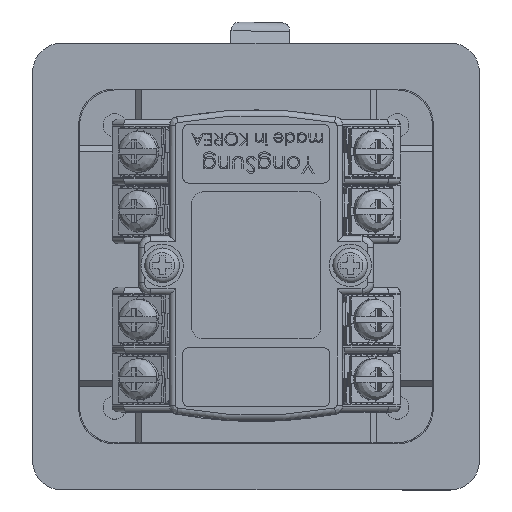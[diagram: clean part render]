
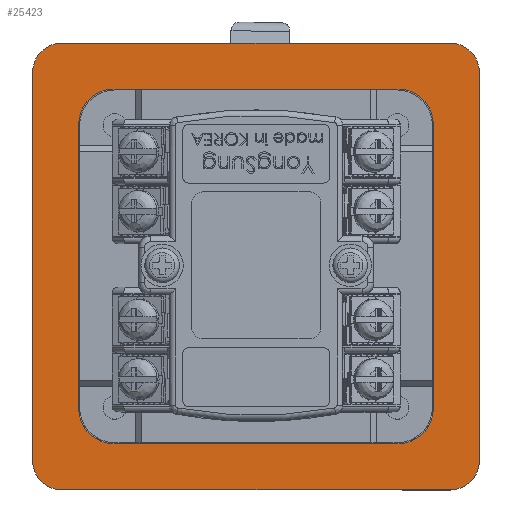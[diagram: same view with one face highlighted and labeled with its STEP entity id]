
A CAD part, top view. The second image highlights one B-rep face of the part: STEP entity #25423.
In plain terms, the highlighted planar face has unit normal (0, 0, 1) as drawn and (0, 0, -1) by its records, which use the part's own axes.
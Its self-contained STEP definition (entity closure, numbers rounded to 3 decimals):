
#1571=FACE_BOUND('',#4035,.T.);
#1572=FACE_BOUND('',#4036,.T.);
#1573=FACE_BOUND('',#4037,.T.);
#1574=FACE_BOUND('',#4038,.T.);
#1575=FACE_BOUND('',#4039,.T.);
#1576=FACE_BOUND('',#4040,.T.);
#1577=FACE_BOUND('',#4041,.T.);
#2540=FACE_OUTER_BOUND('',#4034,.T.);
#4034=EDGE_LOOP('',(#20939,#20940,#20941,#20942,#20943,#20944,#20945,#20946));
#4035=EDGE_LOOP('',(#20947,#20948,#20949,#20950));
#4036=EDGE_LOOP('',(#20951));
#4037=EDGE_LOOP('',(#20952));
#4038=EDGE_LOOP('',(#20953));
#4039=EDGE_LOOP('',(#20954));
#4040=EDGE_LOOP('',(#20955));
#4041=EDGE_LOOP('',(#20956));
#6333=LINE('',#46320,#8824);
#6336=LINE('',#46326,#8827);
#6337=LINE('',#46330,#8828);
#6338=LINE('',#46334,#8829);
#6339=LINE('',#46338,#8830);
#6340=LINE('',#46340,#8831);
#6341=LINE('',#46343,#8832);
#8824=VECTOR('',#31619,66.);
#8827=VECTOR('',#31624,66.);
#8828=VECTOR('',#31627,66.);
#8829=VECTOR('',#31630,66.);
#8830=VECTOR('',#31633,6.5);
#8831=VECTOR('',#31634,7.23);
#8832=VECTOR('',#31637,7.23);
#9963=CIRCLE('',#27101,5.);
#9964=CIRCLE('',#27104,5.);
#9965=CIRCLE('',#27105,5.);
#9966=CIRCLE('',#27106,5.);
#9967=CIRCLE('',#27107,11.25);
#9968=CIRCLE('',#27108,2.25);
#9969=CIRCLE('',#27109,2.25);
#9970=CIRCLE('',#27110,2.25);
#9971=CIRCLE('',#27111,2.25);
#9972=CIRCLE('',#27112,1.75);
#9973=CIRCLE('',#27113,1.75);
#11691=VERTEX_POINT('',#46313);
#11692=VERTEX_POINT('',#46315);
#11693=VERTEX_POINT('',#46319);
#11695=VERTEX_POINT('',#46325);
#11696=VERTEX_POINT('',#46327);
#11697=VERTEX_POINT('',#46329);
#11698=VERTEX_POINT('',#46331);
#11699=VERTEX_POINT('',#46333);
#11700=VERTEX_POINT('',#46336);
#11701=VERTEX_POINT('',#46337);
#11702=VERTEX_POINT('',#46339);
#11703=VERTEX_POINT('',#46341);
#11704=VERTEX_POINT('',#46344);
#11705=VERTEX_POINT('',#46346);
#11706=VERTEX_POINT('',#46348);
#11707=VERTEX_POINT('',#46350);
#11708=VERTEX_POINT('',#46352);
#11709=VERTEX_POINT('',#46354);
#14935=EDGE_CURVE('',#11691,#11692,#9963,.T.);
#14937=EDGE_CURVE('',#11693,#11692,#6333,.T.);
#14940=EDGE_CURVE('',#11691,#11695,#6336,.T.);
#14941=EDGE_CURVE('',#11696,#11695,#9964,.T.);
#14942=EDGE_CURVE('',#11696,#11697,#6337,.T.);
#14943=EDGE_CURVE('',#11698,#11697,#9965,.T.);
#14944=EDGE_CURVE('',#11698,#11699,#6338,.T.);
#14945=EDGE_CURVE('',#11693,#11699,#9966,.T.);
#14946=EDGE_CURVE('',#11700,#11701,#6339,.T.);
#14947=EDGE_CURVE('',#11701,#11702,#6340,.T.);
#14948=EDGE_CURVE('',#11702,#11703,#9967,.T.);
#14949=EDGE_CURVE('',#11703,#11700,#6341,.T.);
#14950=EDGE_CURVE('',#11704,#11704,#9968,.T.);
#14951=EDGE_CURVE('',#11705,#11705,#9969,.T.);
#14952=EDGE_CURVE('',#11706,#11706,#9970,.T.);
#14953=EDGE_CURVE('',#11707,#11707,#9971,.T.);
#14954=EDGE_CURVE('',#11708,#11708,#9972,.T.);
#14955=EDGE_CURVE('',#11709,#11709,#9973,.T.);
#20939=ORIENTED_EDGE('',*,*,#14935,.F.);
#20940=ORIENTED_EDGE('',*,*,#14940,.T.);
#20941=ORIENTED_EDGE('',*,*,#14941,.F.);
#20942=ORIENTED_EDGE('',*,*,#14942,.T.);
#20943=ORIENTED_EDGE('',*,*,#14943,.F.);
#20944=ORIENTED_EDGE('',*,*,#14944,.T.);
#20945=ORIENTED_EDGE('',*,*,#14945,.F.);
#20946=ORIENTED_EDGE('',*,*,#14937,.T.);
#20947=ORIENTED_EDGE('',*,*,#14946,.T.);
#20948=ORIENTED_EDGE('',*,*,#14947,.T.);
#20949=ORIENTED_EDGE('',*,*,#14948,.T.);
#20950=ORIENTED_EDGE('',*,*,#14949,.T.);
#20951=ORIENTED_EDGE('',*,*,#14950,.T.);
#20952=ORIENTED_EDGE('',*,*,#14951,.T.);
#20953=ORIENTED_EDGE('',*,*,#14952,.T.);
#20954=ORIENTED_EDGE('',*,*,#14953,.T.);
#20955=ORIENTED_EDGE('',*,*,#14954,.T.);
#20956=ORIENTED_EDGE('',*,*,#14955,.T.);
#24279=PLANE('',#27103);
#25423=ADVANCED_FACE('',(#2540,#1571,#1572,#1573,#1574,#1575,#1576,#1577),
#24279,.F.);
#27101=AXIS2_PLACEMENT_3D('',#46316,#31614,#31615);
#27103=AXIS2_PLACEMENT_3D('',#46324,#31622,#31623);
#27104=AXIS2_PLACEMENT_3D('',#46328,#31625,#31626);
#27105=AXIS2_PLACEMENT_3D('',#46332,#31628,#31629);
#27106=AXIS2_PLACEMENT_3D('',#46335,#31631,#31632);
#27107=AXIS2_PLACEMENT_3D('',#46342,#31635,#31636);
#27108=AXIS2_PLACEMENT_3D('',#46345,#31638,#31639);
#27109=AXIS2_PLACEMENT_3D('',#46347,#31640,#31641);
#27110=AXIS2_PLACEMENT_3D('',#46349,#31642,#31643);
#27111=AXIS2_PLACEMENT_3D('',#46351,#31644,#31645);
#27112=AXIS2_PLACEMENT_3D('',#46353,#31646,#31647);
#27113=AXIS2_PLACEMENT_3D('',#46355,#31648,#31649);
#31614=DIRECTION('center_axis',(0.,0.,1.));
#31615=DIRECTION('ref_axis',(-0.707,-0.707,0.));
#31619=DIRECTION('',(-1.,0.,0.));
#31622=DIRECTION('center_axis',(0.,0.,1.));
#31623=DIRECTION('ref_axis',(1.,0.,0.));
#31624=DIRECTION('',(0.,1.,0.));
#31625=DIRECTION('center_axis',(0.,0.,1.));
#31626=DIRECTION('ref_axis',(-0.707,0.707,0.));
#31627=DIRECTION('',(1.,0.,0.));
#31628=DIRECTION('center_axis',(0.,0.,1.));
#31629=DIRECTION('ref_axis',(0.707,0.707,0.));
#31630=DIRECTION('',(0.,-1.,0.));
#31631=DIRECTION('center_axis',(0.,0.,1.));
#31632=DIRECTION('ref_axis',(0.707,-0.707,0.));
#31633=DIRECTION('',(1.,0.,0.));
#31634=DIRECTION('',(0.,1.,0.));
#31635=DIRECTION('center_axis',(0.,0.,1.));
#31636=DIRECTION('ref_axis',(0.289,-0.957,0.));
#31637=DIRECTION('',(0.,-1.,0.));
#31638=DIRECTION('center_axis',(0.,0.,1.));
#31639=DIRECTION('ref_axis',(-1.,0.,0.));
#31640=DIRECTION('center_axis',(0.,0.,1.));
#31641=DIRECTION('ref_axis',(-1.,0.,0.));
#31642=DIRECTION('center_axis',(0.,0.,1.));
#31643=DIRECTION('ref_axis',(-1.,0.,0.));
#31644=DIRECTION('center_axis',(0.,0.,1.));
#31645=DIRECTION('ref_axis',(-1.,0.,0.));
#31646=DIRECTION('center_axis',(0.,0.,1.));
#31647=DIRECTION('ref_axis',(-1.,0.,0.));
#31648=DIRECTION('center_axis',(0.,0.,1.));
#31649=DIRECTION('ref_axis',(-1.,0.,0.));
#46313=CARTESIAN_POINT('',(-38.,-33.,0.));
#46315=CARTESIAN_POINT('',(-33.,-38.,0.));
#46316=CARTESIAN_POINT('Origin',(-33.,-33.,0.));
#46319=CARTESIAN_POINT('',(33.,-38.,0.));
#46320=CARTESIAN_POINT('',(38.,-38.,0.));
#46324=CARTESIAN_POINT('Origin',(0.,0.,
0.));
#46325=CARTESIAN_POINT('',(-38.,33.,0.));
#46326=CARTESIAN_POINT('',(-38.,-38.,0.));
#46327=CARTESIAN_POINT('',(-33.,38.,0.));
#46328=CARTESIAN_POINT('Origin',(-33.,33.,0.));
#46329=CARTESIAN_POINT('',(33.,38.,0.));
#46330=CARTESIAN_POINT('',(-38.,38.,0.));
#46331=CARTESIAN_POINT('',(38.,33.,0.));
#46332=CARTESIAN_POINT('Origin',(33.,33.,0.));
#46333=CARTESIAN_POINT('',(38.,-33.,0.));
#46334=CARTESIAN_POINT('',(38.,38.,0.));
#46335=CARTESIAN_POINT('Origin',(33.,-33.,0.));
#46336=CARTESIAN_POINT('',(-3.25,-18.,0.));
#46337=CARTESIAN_POINT('',(3.25,-18.,0.));
#46338=CARTESIAN_POINT('',(-1.625,-18.,0.));
#46339=CARTESIAN_POINT('',(3.25,-10.77,0.));
#46340=CARTESIAN_POINT('',(3.25,-9.,0.));
#46341=CARTESIAN_POINT('',(-3.25,-10.77,0.));
#46342=CARTESIAN_POINT('Origin',(0.,0.,0.));
#46343=CARTESIAN_POINT('',(-3.25,-5.385,0.));
#46344=CARTESIAN_POINT('',(26.25,0.,0.));
#46345=CARTESIAN_POINT('Origin',(24.,0.,0.));
#46346=CARTESIAN_POINT('',(2.25,-24.,0.));
#46347=CARTESIAN_POINT('Origin',(0.,-24.,0.));
#46348=CARTESIAN_POINT('',(-21.75,0.,0.));
#46349=CARTESIAN_POINT('Origin',(-24.,0.,0.));
#46350=CARTESIAN_POINT('',(2.25,24.,0.));
#46351=CARTESIAN_POINT('Origin',(0.,24.,0.));
#46352=CARTESIAN_POINT('',(16.75,0.,0.));
#46353=CARTESIAN_POINT('Origin',(15.,0.,0.));
#46354=CARTESIAN_POINT('',(-13.25,0.,0.));
#46355=CARTESIAN_POINT('Origin',(-15.,0.,0.));
